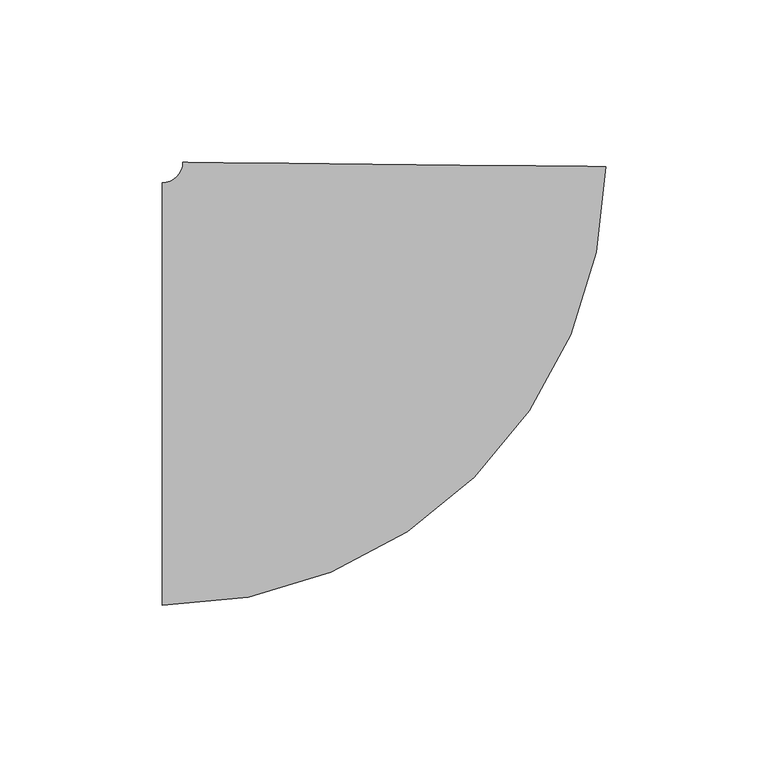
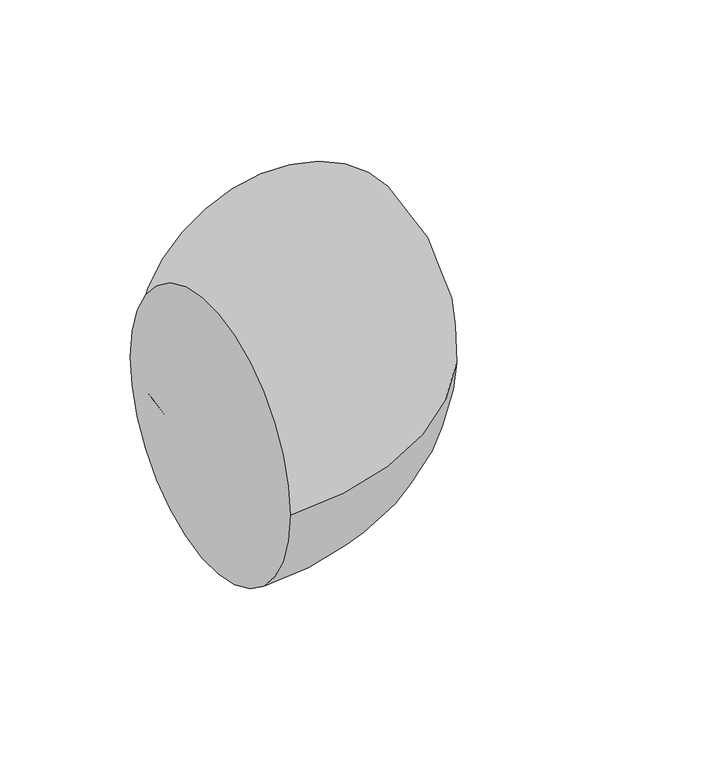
"""IFC4 building model written with IfcOpenShell, lengths in millimetres: pipe fitting geometry, M_Codo - Genérico : Estándar."""

import ifcopenshell
import ifcopenshell.guid

model = None  # the IFC model being written
_history = None  # IfcOwnerHistory: only IFC2X3 demands one
_inside = {}  # id of a spatial element -> (the spatial element, [elements in it])
_under = {}  # id of a project, library or spatial element -> (it, [spatial elements below it])
_declared = {}  # id of a project -> (the project, [libraries it declares])
_typed = {}  # id of a type object -> (the type object, [elements of that type])
_made_of = {}  # id of a material, layer set ... -> (it, [elements and type objects made of it])


def new_model(schema):
    """Start an empty IFC model of exactly this schema.

    Asked for "IFC4X3", IfcOpenShell would pick the latest addendum, in which some entities
    have other attributes; the version numbers below select the first issue.
    IFC2X3 requires an IfcOwnerHistory on every rooted entity: one is made here for all.
    """
    global model, _history
    if schema == "IFC4X3":
        model = ifcopenshell.file(schema_version=(4, 3, 0, 0))
    else:
        model = ifcopenshell.file(schema=schema)
    _inside.clear()
    _under.clear()
    _declared.clear()
    _typed.clear()
    _made_of.clear()
    _history = None
    if model.schema == "IFC2X3":
        org = make("IfcOrganization", Name="unknown")
        user = make(
            "IfcPersonAndOrganization",
            ThePerson=make("IfcPerson", FamilyName="unknown"),
            TheOrganization=org,
        )
        app = make(
            "IfcApplication",
            ApplicationDeveloper=org,
            Version="unknown",
            ApplicationFullName="unknown",
            ApplicationIdentifier="unknown",
        )
        _history = make(
            "IfcOwnerHistory",
            OwningUser=user,
            OwningApplication=app,
            ChangeAction="ADDED",
            CreationDate=0,
        )
    return model


def make(cls, **values):
    """One entity of the class cls with the attributes given. An attribute that is None is left unset."""
    return model.create_entity(
        cls, **{name: value for name, value in values.items() if value is not None}
    )


def rooted(cls, **values):
    """An entity with a GlobalId (a new one), such as an element, a storey or a relation."""
    return make(cls, GlobalId=ifcopenshell.guid.new(), OwnerHistory=_history, **values)


def si_unit(unit_type, name, prefix=None):
    """IfcSIUnit, for example si_unit("LENGTHUNIT", "METRE", prefix="MILLI")."""
    return make("IfcSIUnit", UnitType=unit_type, Prefix=prefix, Name=name)


def assignment(units):
    """IfcUnitAssignment: the units of a project."""
    return None if units is None else make("IfcUnitAssignment", Units=units)


def point(xyz):
    """IfcCartesianPoint."""
    return None if xyz is None else make("IfcCartesianPoint", Coordinates=xyz)


def direction(xyz):
    """IfcDirection."""
    return None if xyz is None else make("IfcDirection", DirectionRatios=xyz)


def frame(location, z_axis=None, x_axis=None):
    """IfcAxis2Placement3D, a coordinate frame: its origin and axes. An axis left out is left unset."""
    return make(
        "IfcAxis2Placement3D",
        Location=point(location),
        Axis=direction(z_axis),
        RefDirection=direction(x_axis),
    )


def origin():
    """The frame at (0, 0, 0) with its axes left unset."""
    return frame((0.0, 0.0, 0.0))


def place(relative_to, where):
    """IfcLocalPlacement: puts the frame where relative to a parent placement (None: the world)."""
    return make(
        "IfcLocalPlacement", PlacementRelTo=relative_to, RelativePlacement=where
    )


def context(
    kind, dimensions, precision=None, world=None, true_north=None, identifier=None
):
    """IfcGeometricRepresentationContext, for example the 3D "Model" context."""
    return make(
        "IfcGeometricRepresentationContext",
        ContextIdentifier=identifier,
        ContextType=kind,
        CoordinateSpaceDimension=dimensions,
        Precision=precision,
        WorldCoordinateSystem=world,
        TrueNorth=true_north,
    )


def project(units=None, contexts=None):
    """IfcProject with its units and contexts."""
    return rooted(
        "IfcProject",
        Name="project",
        RepresentationContexts=contexts,
        UnitsInContext=assignment(units),
    )


def spatial(cls, under=None, at=None, **own):
    """A site, building, storey or space (cls), placed at a placement, below another one or the project."""
    s = rooted(cls, ObjectPlacement=at, **own)
    if under is not None:
        _under.setdefault(under.id(), (under, []))[1].append(s)
    return s


def circle_curve(where, radius):
    """IfcCircle in the frame where."""
    return make("IfcCircle", Position=where, Radius=radius)


def ellipse_curve(where, semi_axis1, semi_axis2):
    """IfcEllipse in the frame where."""
    return make(
        "IfcEllipse", Position=where, SemiAxis1=semi_axis1, SemiAxis2=semi_axis2
    )


def trimmed(basis, trim1, trim2, sense, master):
    """IfcTrimmedCurve: the piece of a basis curve between two trims."""
    return make(
        "IfcTrimmedCurve",
        BasisCurve=basis,
        Trim1=trim1,
        Trim2=trim2,
        SenseAgreement=sense,
        MasterRepresentation=master,
    )


def shape(context_of_items, identifier, shape_type, items):
    """IfcShapeRepresentation: the items that make up one representation, for example the "Body"."""
    return make(
        "IfcShapeRepresentation",
        ContextOfItems=context_of_items,
        RepresentationIdentifier=identifier,
        RepresentationType=shape_type,
        Items=items,
    )


def source(mapping_origin, context_of_items, identifier, shape_type, items):
    """IfcRepresentationMap: a shape defined once, which mapped items show again and again."""
    return make(
        "IfcRepresentationMap",
        MappingOrigin=mapping_origin,
        MappedRepresentation=shape(context_of_items, identifier, shape_type, items),
    )


def transform(
    local_origin,
    x_axis=None,
    y_axis=None,
    z_axis=None,
    scale=None,
    scale2=None,
    scale3=None,
    uniform=True,
):
    """IfcCartesianTransformationOperator3D, or its non-uniform kind. x_axis, y_axis, z_axis: its Axis1, 2, 3."""
    if uniform:
        return make(
            "IfcCartesianTransformationOperator3D",
            Axis1=direction(x_axis),
            Axis2=direction(y_axis),
            LocalOrigin=point(local_origin),
            Scale=scale,
            Axis3=direction(z_axis),
        )
    return make(
        "IfcCartesianTransformationOperator3DnonUniform",
        Axis1=direction(x_axis),
        Axis2=direction(y_axis),
        LocalOrigin=point(local_origin),
        Scale=scale,
        Axis3=direction(z_axis),
        Scale2=scale2,
        Scale3=scale3,
    )


def mapped(mapping_source, mapping_target):
    """IfcMappedItem: shows the shape of a source again, moved by a transform."""
    return make(
        "IfcMappedItem", MappingSource=mapping_source, MappingTarget=mapping_target
    )


def made_of(thing, what):
    """Note that an element or type object is made of a material, layer set ...; save() writes the relation."""
    if what is not None:
        _made_of.setdefault(what.id(), (what, []))[1].append(thing)
    return thing


def element(
    cls,
    number,
    at=None,
    inside=None,
    cuts=None,
    type_object=None,
    material=None,
    context=None,
    identifier="Body",
    shape_type=None,
    held_by="IfcProductDefinitionShape",
    body=None,
    shapes=None,
    **own,
):
    """One element of the class cls, such as IfcWall. Its Tag is "e" and its number.

    at: its placement. inside: the storey or other place that contains it. cuts: it is an
    opening in that element (IfcRelVoidsElement). A single representation is given by context,
    identifier, shape_type and body (its items); several are given by shapes. held_by: the class
    of the entity that holds the representations. save() writes the other relations.
    """
    e = rooted(cls, Tag="e%d" % number, ObjectPlacement=at, **own)
    if body is not None:
        shapes = [shape(context, identifier, shape_type, body)]
    if shapes is not None:
        e.Representation = make(held_by, Representations=shapes)
    if inside is not None:
        _inside.setdefault(inside.id(), (inside, []))[1].append(e)
    if cuts is not None:
        rooted(
            "IfcRelVoidsElement", RelatingBuildingElement=cuts, RelatedOpeningElement=e
        )
    if type_object is not None:
        _typed.setdefault(type_object.id(), (type_object, []))[1].append(e)
    return made_of(e, material)


def aggregate(whole, parts):
    """IfcRelAggregates: a whole, such as a stair, and the parts it consists of."""
    return rooted("IfcRelAggregates", RelatingObject=whole, RelatedObjects=parts)


def save(model, path):
    """Write the relations noted so far, then the file.

    IfcRelAggregates (storeys below a building ...), IfcRelContainedInSpatialStructure (elements
    in a storey), IfcRelDefinesByType, IfcRelAssociatesMaterial and IfcRelDeclares: one each for
    every whole, place, type object, material and project.
    """
    for whole, parts in _under.values():
        aggregate(whole, parts)
    for where, things in _inside.values():
        rooted(
            "IfcRelContainedInSpatialStructure",
            RelatedElements=things,
            RelatingStructure=where,
        )
    for kind, things in _typed.values():
        rooted("IfcRelDefinesByType", RelatedObjects=things, RelatingType=kind)
    for what, things in _made_of.values():
        rooted("IfcRelAssociatesMaterial", RelatedObjects=things, RelatingMaterial=what)
    for by, libraries in _declared.values():
        rooted("IfcRelDeclares", RelatingContext=by, RelatedDefinitions=libraries)
    model.write(path)


def plane_surface(at):
    """IfcPlane: the flat surface through the origin of the frame at, square to its z axis."""
    return make("IfcPlane", Position=at)


def revolved_surface(curve, axis_point, axis_direction):
    """IfcSurfaceOfRevolution: the curve turned about the line through axis_point along axis_direction."""
    return make(
        "IfcSurfaceOfRevolution",
        SweptCurve=make("IfcArbitraryOpenProfileDef", ProfileType="CURVE", Curve=curve),
        AxisPosition=make("IfcAxis1Placement", Location=point(axis_point), Axis=direction(axis_direction)),
    )


def advanced_brep(points, edges, surfaces, faces):
    """IfcAdvancedBrep: a solid bounded by faces that lie on surfaces and meet in shared edges.

    An edge is (start, end): straight between two places in points (the first is 0);
    or (start, end, curve); or (start, end, curve, False) where it runs against its curve.
    A face is (place in surfaces, loops), or (place, loops, False) where it looks against
    its surface's normal. A loop lists edges by number (the first is 1), with a minus sign
    where the edge is run from its end to its start. The first loop is the outer one.
    """
    corners = [point(p) for p in points]
    vertices = [make("IfcVertexPoint", VertexGeometry=c) for c in corners]
    made = []
    for start, end, *more in edges:
        made.append(
            make(
                "IfcEdgeCurve",
                EdgeStart=vertices[start],
                EdgeEnd=vertices[end],
                EdgeGeometry=more[0] if more else make("IfcPolyline", Points=[corners[start], corners[end]]),
                SameSense=more[1] if len(more) > 1 else True,
            )
        )
    hull = []
    for where, loops, *sense in faces:
        bounds = []
        for j, loop in enumerate(loops):
            ring = [make("IfcOrientedEdge", EdgeElement=made[abs(k) - 1], Orientation=k > 0) for k in loop]
            bounds.append(
                make(
                    "IfcFaceOuterBound" if j == 0 else "IfcFaceBound",
                    Bound=make("IfcEdgeLoop", EdgeList=ring),
                    Orientation=True,
                )
            )
        hull.append(make("IfcAdvancedFace", Bounds=bounds, FaceSurface=surfaces[where], SameSense=sense[0] if sense else True))
    return make("IfcAdvancedBrep", Outer=make("IfcClosedShell", CfsFaces=hull))


def pipe_fitting_5e89c8c0(model_context):
    return source(origin(), model_context, "Body", "AdvancedBrep", [
        advanced_brep(
        [(-70.7270394, -65.0875, 0.0), (-70.7270394, 65.0875, 0.0), (65.7911415, 70.0729795, 0.0), (-64.3773565, 71.3740339, 0.0)],
        [
            (0, 1, circle_curve(frame((-70.7270394, 0.0, 0.0), z_axis=(-1.0, 0.0, 0.0), x_axis=(0.0, 1.0, 0.0)), 65.0875)),
            (1, 0, circle_curve(frame((-70.7270394, 0.0, 0.0), z_axis=(-1.0, 0.0, 0.0), x_axis=(0.0, 1.0, 0.0)), 65.0875)),
            (2, 3, circle_curve(frame((0.7068925, 70.7235067, 0.0), z_axis=(0.009994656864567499, 0.9999500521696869, 0.0), x_axis=(-0.9999500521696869, 0.009994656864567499, 0.0)), 65.0875)),
            (3, 2, circle_curve(frame((0.7068925, 70.7235067, 0.0), z_axis=(0.009994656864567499, 0.9999500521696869, 0.0), x_axis=(-0.9999500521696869, 0.009994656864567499, 0.0)), 65.0875)),
            (3, 1, circle_curve(frame((-70.7270394, 71.4375, 0.0), z_axis=(0.0, 0.0, -1.0), x_axis=(0.0, -1.0, 0.0)), 6.35)),
            (0, 2, circle_curve(frame((-70.7270394, 71.4375, 0.0), z_axis=(0.0, 0.0, 1.0), x_axis=(0.0, -1.0, 0.0)), 136.525)),
        ],
        [
            plane_surface(frame((-70.7270394, 0.0, 0.0), z_axis=(-1.0, 0.0, 0.0), x_axis=(0.0, 0.0, 1.0))),
            plane_surface(frame((0.7068925, 70.7235067, 0.0), z_axis=(0.009994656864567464, 0.9999500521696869, 0.0), x_axis=(0.0, 0.0, 1.0))),
            revolved_surface(trimmed(ellipse_curve(frame((-70.7270394, 0.0, 0.0), z_axis=(-1.0, 0.0, 0.0), x_axis=(0.0, 1.0, 0.0)), 65.0875, 65.0875), [point((-70.7270394, -65.0875, 0.0))], [point((-70.7270394, 65.0875, 0.0))], True, "CARTESIAN"), (-70.7270394, 71.4375, 0.0), (0.0, 0.0, 1.0)),
            revolved_surface(trimmed(ellipse_curve(frame((-70.7270394, 0.0, 0.0), z_axis=(-1.0, 0.0, 0.0), x_axis=(0.0, 1.0, 0.0)), 65.0875, 65.0875), [point((-70.7270394, 65.0875, 0.0))], [point((-70.7270394, -65.0875, 0.0))], True, "CARTESIAN"), (-70.7270394, 71.4375, 0.0), (0.0, 0.0, 1.0)),
        ],
        [
            (0, [[1, 2]]),
            (1, [[3, 4]]),
            (2, [[5, -1, 6, -4]]),
            (3, [[-6, -2, -5, -3]]),
        ],
    ),
    ])


if __name__ == "__main__":
    model = new_model("IFC4")
    model_context = context("Model", 3, world=origin())
    ifc_project = project(units=[si_unit("LENGTHUNIT", "METRE", prefix="MILLI")], contexts=[model_context])
    site = spatial("IfcSite", under=ifc_project)
    building = spatial("IfcBuilding", under=site)
    placement = place(None, origin())
    pipe_fitting_shape = pipe_fitting_5e89c8c0(model_context)
    element("IfcPipeFitting", 1, ObjectType="M_Codo - Genérico : Estándar", at=placement, inside=building, context=model_context, shape_type="MappedRepresentation", body=[
        mapped(pipe_fitting_shape, transform((0.0, 0.0, 0.0), x_axis=(1.0, 0.0, 0.0), y_axis=(0.0, 1.0, 0.0), z_axis=(0.0, 0.0, 1.0))),
    ])
    save(model, "model.ifc")
